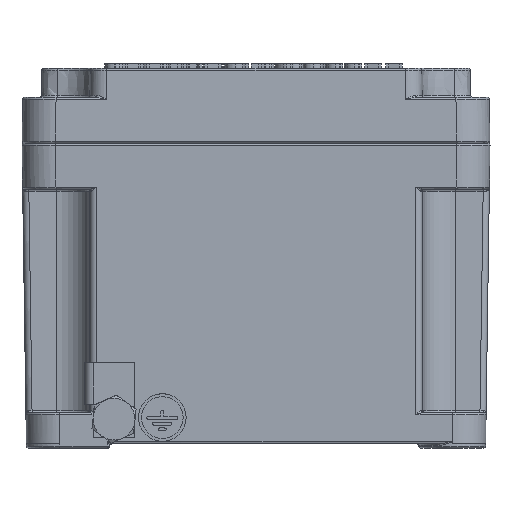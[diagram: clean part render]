
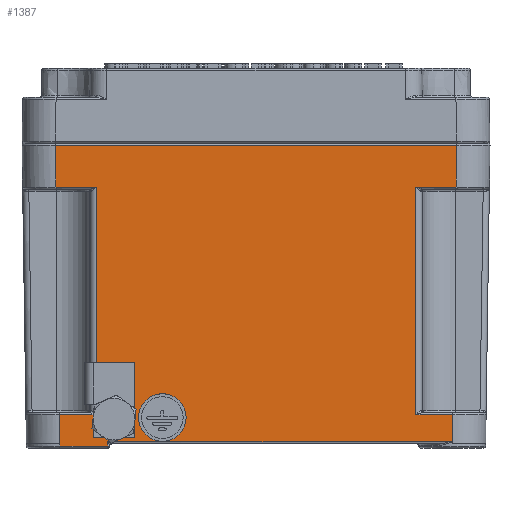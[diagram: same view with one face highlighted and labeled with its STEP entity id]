
A CAD part, left-side view. The second image highlights one B-rep face of the part: STEP entity #1387.
In plain terms, the highlighted planar face has unit normal (-1, 0, -0.015).
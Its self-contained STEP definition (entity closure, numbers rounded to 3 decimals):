
#328=CARTESIAN_POINT('',(-85.13,34.,8.943));
#329=VERTEX_POINT('',#328);
#337=CARTESIAN_POINT('',(-85.087,34.,5.993));
#338=DIRECTION('',(-1.,0.,-0.015));
#339=DIRECTION('',(0.015,0.0,-1.));
#340=AXIS2_PLACEMENT_3D('',#337,#338,#339);
#341=ELLIPSE('',#340,2.95,2.95);
#342=EDGE_CURVE('',#329,#329,#341,.T.);
#664=CARTESIAN_POINT('',(-85.175,22.434,12.019));
#665=VERTEX_POINT('',#664);
#666=CARTESIAN_POINT('',(-85.092,22.434,6.32));
#667=DIRECTION('',(1.,0.,0.015));
#668=DIRECTION('',(0.015,0.,-1.));
#669=AXIS2_PLACEMENT_3D('',#666,#667,#668);
#670=CIRCLE('',#669,5.7);
#671=EDGE_CURVE('',#665,#665,#670,.T.);
#1238=CARTESIAN_POINT('',(-85.,-55.,0.0));
#1239=DIRECTION('',(-1.,0.,-0.015));
#1240=DIRECTION('',(0.0,-1.0,0.0));
#1241=AXIS2_PLACEMENT_3D('',#1238,#1239,#1240);
#1242=PLANE('',#1241);
#1243=CARTESIAN_POINT('',(-85.007,35.493,0.493));
#1244=VERTEX_POINT('',#1243);
#1245=CARTESIAN_POINT('',(-84.993,35.507,-0.507));
#1246=VERTEX_POINT('',#1245);
#1247=CARTESIAN_POINT('',(-85.007,35.493,0.493));
#1248=DIRECTION('',(0.015,0.015,-1.));
#1249=VECTOR('',#1248,1.);
#1250=LINE('',#1247,#1249);
#1251=EDGE_CURVE('',#1244,#1246,#1250,.T.);
#1252=ORIENTED_EDGE('',*,*,#1251,.F.);
#1253=CARTESIAN_POINT('',(-85.007,-46.999,0.493));
#1254=VERTEX_POINT('',#1253);
#1255=CARTESIAN_POINT('',(-85.007,35.493,0.493));
#1256=DIRECTION('',(0.0,-1.0,0.0));
#1257=VECTOR('',#1256,82.492);
#1258=LINE('',#1255,#1257);
#1259=EDGE_CURVE('',#1244,#1254,#1258,.T.);
#1260=ORIENTED_EDGE('',*,*,#1259,.T.);
#1261=CARTESIAN_POINT('',(-85.,-46.999,0.0));
#1262=VERTEX_POINT('',#1261);
#1263=CARTESIAN_POINT('',(-85.007,-46.999,0.493));
#1264=DIRECTION('',(0.015,0.0,-1.));
#1265=VECTOR('',#1264,0.493);
#1266=LINE('',#1263,#1265);
#1267=EDGE_CURVE('',#1254,#1262,#1266,.T.);
#1268=ORIENTED_EDGE('',*,*,#1267,.T.);
#1269=CARTESIAN_POINT('',(-85.,-47.001,0.0));
#1270=VERTEX_POINT('',#1269);
#1271=CARTESIAN_POINT('',(-85.,-46.999,0.0));
#1272=DIRECTION('',(0.0,-1.0,0.0));
#1273=VECTOR('',#1272,0.002);
#1274=LINE('',#1271,#1273);
#1275=EDGE_CURVE('',#1262,#1270,#1274,.T.);
#1276=ORIENTED_EDGE('',*,*,#1275,.T.);
#1277=CARTESIAN_POINT('',(-85.102,-47.103,6.993));
#1278=VERTEX_POINT('',#1277);
#1279=CARTESIAN_POINT('',(-85.102,-47.103,6.993));
#1280=DIRECTION('',(0.015,0.015,-1.));
#1281=VECTOR('',#1280,6.994);
#1282=LINE('',#1279,#1281);
#1283=EDGE_CURVE('',#1278,#1270,#1282,.T.);
#1284=ORIENTED_EDGE('',*,*,#1283,.F.);
#1285=CARTESIAN_POINT('',(-85.102,-38.302,6.993));
#1286=VERTEX_POINT('',#1285);
#1287=CARTESIAN_POINT('',(-85.102,-38.302,6.993));
#1288=DIRECTION('',(0.0,-1.0,0.0));
#1289=VECTOR('',#1288,8.8);
#1290=LINE('',#1287,#1289);
#1291=EDGE_CURVE('',#1286,#1278,#1290,.T.);
#1292=ORIENTED_EDGE('',*,*,#1291,.F.);
#1293=CARTESIAN_POINT('',(-85.894,-38.291,61.493));
#1294=VERTEX_POINT('',#1293);
#1295=CARTESIAN_POINT('',(-85.894,-38.291,61.493));
#1296=DIRECTION('',(0.015,0.,-1.));
#1297=VECTOR('',#1296,54.506);
#1298=LINE('',#1295,#1297);
#1299=EDGE_CURVE('',#1294,#1286,#1298,.T.);
#1300=ORIENTED_EDGE('',*,*,#1299,.F.);
#1301=CARTESIAN_POINT('',(-85.894,-47.895,61.493));
#1302=VERTEX_POINT('',#1301);
#1303=CARTESIAN_POINT('',(-85.894,-47.895,61.493));
#1304=DIRECTION('',(0.0,1.0,0.0));
#1305=VECTOR('',#1304,9.604);
#1306=LINE('',#1303,#1305);
#1307=EDGE_CURVE('',#1302,#1294,#1306,.T.);
#1308=ORIENTED_EDGE('',*,*,#1307,.F.);
#1309=CARTESIAN_POINT('',(-86.039,-48.04,71.493));
#1310=VERTEX_POINT('',#1309);
#1311=CARTESIAN_POINT('',(-86.039,-48.04,71.493));
#1312=DIRECTION('',(0.015,0.015,-1.));
#1313=VECTOR('',#1312,10.002);
#1314=LINE('',#1311,#1313);
#1315=EDGE_CURVE('',#1310,#1302,#1314,.T.);
#1316=ORIENTED_EDGE('',*,*,#1315,.F.);
#1317=CARTESIAN_POINT('',(-86.039,48.04,71.493));
#1318=VERTEX_POINT('',#1317);
#1319=CARTESIAN_POINT('',(-86.039,48.04,71.493));
#1320=DIRECTION('',(0.0,-1.0,0.0));
#1321=VECTOR('',#1320,96.081);
#1322=LINE('',#1319,#1321);
#1323=EDGE_CURVE('',#1318,#1310,#1322,.T.);
#1324=ORIENTED_EDGE('',*,*,#1323,.F.);
#1325=CARTESIAN_POINT('',(-85.894,47.895,61.493));
#1326=VERTEX_POINT('',#1325);
#1327=CARTESIAN_POINT('',(-85.894,47.895,61.493));
#1328=DIRECTION('',(-0.015,0.015,1.));
#1329=VECTOR('',#1328,10.002);
#1330=LINE('',#1327,#1329);
#1331=EDGE_CURVE('',#1326,#1318,#1330,.T.);
#1332=ORIENTED_EDGE('',*,*,#1331,.F.);
#1333=CARTESIAN_POINT('',(-85.894,38.291,61.493));
#1334=VERTEX_POINT('',#1333);
#1335=CARTESIAN_POINT('',(-85.894,38.291,61.493));
#1336=DIRECTION('',(0.0,1.0,0.0));
#1337=VECTOR('',#1336,9.604);
#1338=LINE('',#1335,#1337);
#1339=EDGE_CURVE('',#1334,#1326,#1338,.T.);
#1340=ORIENTED_EDGE('',*,*,#1339,.F.);
#1341=CARTESIAN_POINT('',(-85.102,38.302,6.993));
#1342=VERTEX_POINT('',#1341);
#1343=CARTESIAN_POINT('',(-85.102,38.302,6.993));
#1344=DIRECTION('',(-0.015,0.,1.));
#1345=VECTOR('',#1344,54.506);
#1346=LINE('',#1343,#1345);
#1347=EDGE_CURVE('',#1342,#1334,#1346,.T.);
#1348=ORIENTED_EDGE('',*,*,#1347,.F.);
#1349=CARTESIAN_POINT('',(-85.102,47.103,6.993));
#1350=VERTEX_POINT('',#1349);
#1351=CARTESIAN_POINT('',(-85.102,47.103,6.993));
#1352=DIRECTION('',(0.0,-1.0,0.0));
#1353=VECTOR('',#1352,8.8);
#1354=LINE('',#1351,#1353);
#1355=EDGE_CURVE('',#1350,#1342,#1354,.T.);
#1356=ORIENTED_EDGE('',*,*,#1355,.F.);
#1357=CARTESIAN_POINT('',(-85.,47.001,0.0));
#1358=VERTEX_POINT('',#1357);
#1359=CARTESIAN_POINT('',(-85.,47.001,0.));
#1360=DIRECTION('',(-0.015,0.015,1.));
#1361=VECTOR('',#1360,6.994);
#1362=LINE('',#1359,#1361);
#1363=EDGE_CURVE('',#1358,#1350,#1362,.T.);
#1364=ORIENTED_EDGE('',*,*,#1363,.F.);
#1365=CARTESIAN_POINT('',(-84.993,47.001,-0.507));
#1366=VERTEX_POINT('',#1365);
#1367=CARTESIAN_POINT('',(-85.,47.001,0.0));
#1368=DIRECTION('',(0.015,0.0,-1.));
#1369=VECTOR('',#1368,0.507);
#1370=LINE('',#1367,#1369);
#1371=EDGE_CURVE('',#1358,#1366,#1370,.T.);
#1372=ORIENTED_EDGE('',*,*,#1371,.T.);
#1373=CARTESIAN_POINT('',(-84.993,35.507,-0.507));
#1374=DIRECTION('',(0.0,1.0,0.0));
#1375=VECTOR('',#1374,11.494);
#1376=LINE('',#1373,#1375);
#1377=EDGE_CURVE('',#1246,#1366,#1376,.T.);
#1378=ORIENTED_EDGE('',*,*,#1377,.F.);
#1379=EDGE_LOOP('',(#1252,#1260,#1268,#1276,#1284,#1292,#1300,#1308,#1316,#1324,#1332,#1340,#1348,#1356,#1364,#1372,#1378));
#1380=FACE_OUTER_BOUND('',#1379,.T.);
#1381=ORIENTED_EDGE('',*,*,#342,.F.);
#1382=EDGE_LOOP('',(#1381));
#1383=FACE_BOUND('',#1382,.T.);
#1384=ORIENTED_EDGE('',*,*,#671,.T.);
#1385=EDGE_LOOP('',(#1384));
#1386=FACE_BOUND('',#1385,.T.);
#1387=ADVANCED_FACE('',(#1380,#1383,#1386),#1242,.T.);
